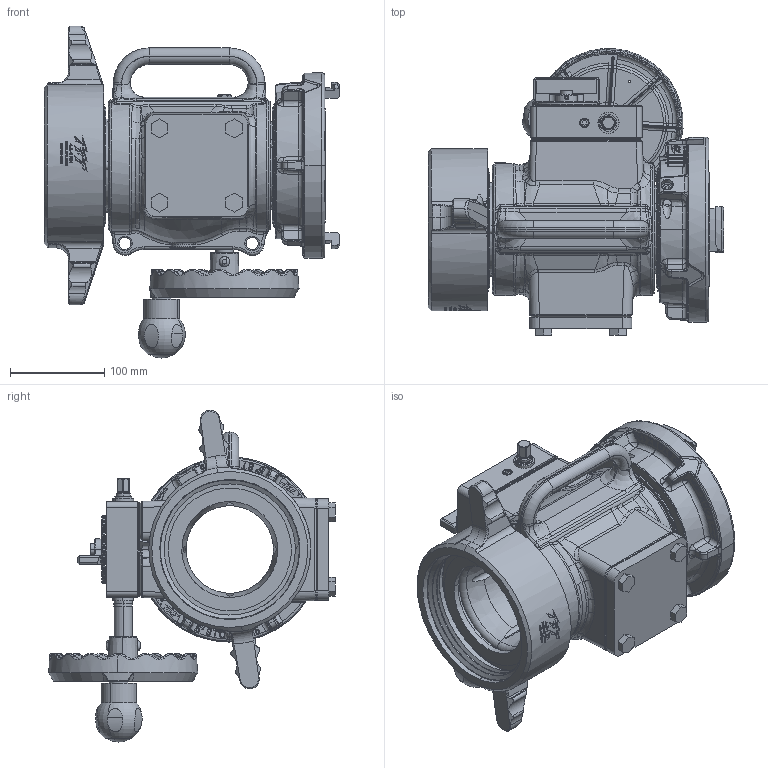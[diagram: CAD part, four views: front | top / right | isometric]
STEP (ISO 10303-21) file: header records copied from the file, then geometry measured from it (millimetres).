
FILE_DESCRIPTION (( 'STEP AP203' ), '1' );
FILE_NAME ('AN5R2T01.step', '2014-05-13T19:11:47', ( 'user' ), ( '' ), 'SwSTEP 2.0', 'SolidWorks 2012', '' );
FILE_SCHEMA (( 'CONFIG_CONTROL_DESIGN' ));
Products named in the file (1): AN5R2T01
Bounding box: 312.62 x 303.45 x 351.41 mm (x, y, z)
Surface area: 541444.7 mm2 (no closed solid volume)
Topology: 0 solids, 182 shells, 2265 faces, 10861 edges, 8572 vertices
Faces by surface type: plane 716, bspline 607, cylinder 495, torus 230, cone 191, sphere 26
Entity records: 156746 total; most frequent: CARTESIAN_POINT 80648, ORIENTED_EDGE 15066, DIRECTION 12954, EDGE_CURVE 10833, VERTEX_POINT 8572, LINE 4748, VECTOR 4748, AXIS2_PLACEMENT_3D 4103
